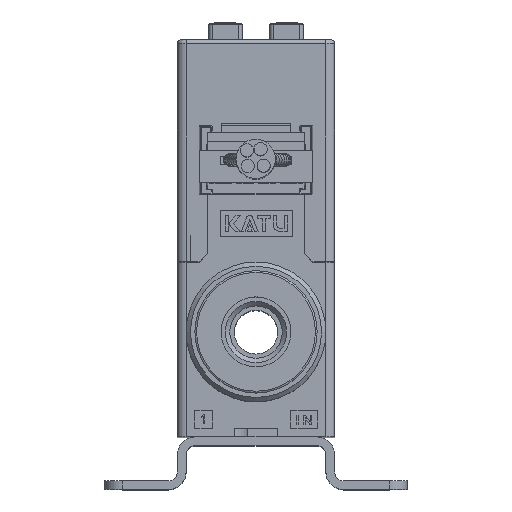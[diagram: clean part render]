
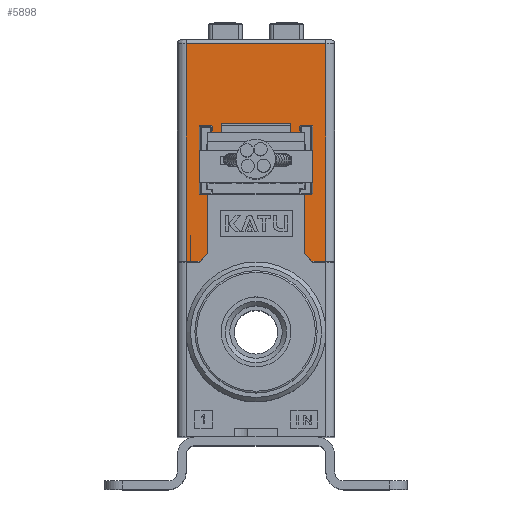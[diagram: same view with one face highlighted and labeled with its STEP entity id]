
A CAD part, top view. The second image highlights one B-rep face of the part: STEP entity #5898.
In plain terms, the highlighted planar face has unit normal (0, 0, 1).
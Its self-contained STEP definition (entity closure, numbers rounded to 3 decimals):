
#104=ELLIPSE('',#18035,0.1,0.1);
#105=ELLIPSE('',#18036,0.1,0.1);
#106=ELLIPSE('',#18037,0.1,0.1);
#107=ELLIPSE('',#18038,0.1,0.1);
#108=ELLIPSE('',#18039,0.1,0.1);
#1301=LINE('',#28096,#2931);
#1307=LINE('',#28110,#2937);
#1359=LINE('',#28219,#2989);
#1370=LINE('',#28241,#3000);
#1445=LINE('',#28441,#3075);
#1446=LINE('',#28444,#3076);
#1447=LINE('',#28446,#3077);
#1448=LINE('',#28448,#3078);
#1449=LINE('',#28449,#3079);
#1450=LINE('',#28450,#3080);
#1451=LINE('',#28452,#3081);
#1452=LINE('',#28456,#3082);
#1453=LINE('',#28459,#3083);
#1454=LINE('',#28462,#3084);
#1455=LINE('',#28466,#3085);
#1456=LINE('',#28470,#3086);
#1457=LINE('',#28471,#3087);
#1458=LINE('',#28472,#3088);
#2931=VECTOR('',#21405,1.);
#2937=VECTOR('',#21413,1.);
#2989=VECTOR('',#21481,1.);
#3000=VECTOR('',#21496,1.);
#3075=VECTOR('',#21673,1.);
#3076=VECTOR('',#21674,1.);
#3077=VECTOR('',#21675,1.);
#3078=VECTOR('',#21676,1.);
#3079=VECTOR('',#21677,1.);
#3080=VECTOR('',#21678,1.);
#3081=VECTOR('',#21679,1.);
#3082=VECTOR('',#21682,1.);
#3083=VECTOR('',#21685,1.);
#3084=VECTOR('',#21688,1.);
#3085=VECTOR('',#21691,1.);
#3086=VECTOR('',#21694,1.);
#3087=VECTOR('',#21695,1.);
#3088=VECTOR('',#21696,1.);
#4082=FACE_OUTER_BOUND('',#7444,.T.);
#5102=PLANE('',#18040);
#5898=ADVANCED_FACE('',(#4082),#5102,.F.);
#7444=EDGE_LOOP('',(#11184,#11185,#11186,#11187,#11188,#11189,#11190,#11191,
#11192,#11193,#11194,#11195,#11196,#11197,#11198,#11199,#11200,#11201,#11202,
#11203,#11204,#11205,#11206));
#11184=ORIENTED_EDGE('',*,*,#15990,.F.);
#11185=ORIENTED_EDGE('',*,*,#15991,.T.);
#11186=ORIENTED_EDGE('',*,*,#15992,.T.);
#11187=ORIENTED_EDGE('',*,*,#15993,.T.);
#11188=ORIENTED_EDGE('',*,*,#15826,.F.);
#11189=ORIENTED_EDGE('',*,*,#15994,.T.);
#11190=ORIENTED_EDGE('',*,*,#15995,.F.);
#11191=ORIENTED_EDGE('',*,*,#15996,.F.);
#11192=ORIENTED_EDGE('',*,*,#15997,.T.);
#11193=ORIENTED_EDGE('',*,*,#15998,.F.);
#11194=ORIENTED_EDGE('',*,*,#15999,.T.);
#11195=ORIENTED_EDGE('',*,*,#15891,.F.);
#11196=ORIENTED_EDGE('',*,*,#16000,.F.);
#11197=ORIENTED_EDGE('',*,*,#15880,.F.);
#11198=ORIENTED_EDGE('',*,*,#16001,.T.);
#11199=ORIENTED_EDGE('',*,*,#16002,.F.);
#11200=ORIENTED_EDGE('',*,*,#16003,.T.);
#11201=ORIENTED_EDGE('',*,*,#16004,.F.);
#11202=ORIENTED_EDGE('',*,*,#16005,.T.);
#11203=ORIENTED_EDGE('',*,*,#16006,.F.);
#11204=ORIENTED_EDGE('',*,*,#16007,.T.);
#11205=ORIENTED_EDGE('',*,*,#15820,.F.);
#11206=ORIENTED_EDGE('',*,*,#16008,.T.);
#13678=VERTEX_POINT('',#28058);
#13694=VERTEX_POINT('',#28091);
#13696=VERTEX_POINT('',#28097);
#13697=VERTEX_POINT('',#28098);
#13702=VERTEX_POINT('',#28109);
#13703=VERTEX_POINT('',#28111);
#13751=VERTEX_POINT('',#28218);
#13752=VERTEX_POINT('',#28220);
#13760=VERTEX_POINT('',#28240);
#13761=VERTEX_POINT('',#28242);
#13835=VERTEX_POINT('',#28442);
#13836=VERTEX_POINT('',#28443);
#13837=VERTEX_POINT('',#28445);
#13838=VERTEX_POINT('',#28447);
#13839=VERTEX_POINT('',#28451);
#13840=VERTEX_POINT('',#28453);
#13841=VERTEX_POINT('',#28455);
#13842=VERTEX_POINT('',#28457);
#13843=VERTEX_POINT('',#28461);
#13844=VERTEX_POINT('',#28463);
#13845=VERTEX_POINT('',#28465);
#13846=VERTEX_POINT('',#28467);
#13847=VERTEX_POINT('',#28469);
#15820=EDGE_CURVE('',#13696,#13697,#1301,.T.);
#15826=EDGE_CURVE('',#13702,#13703,#1307,.T.);
#15880=EDGE_CURVE('',#13751,#13752,#1359,.T.);
#15891=EDGE_CURVE('',#13760,#13761,#1370,.T.);
#15990=EDGE_CURVE('',#13835,#13836,#1445,.T.);
#15991=EDGE_CURVE('',#13835,#13837,#1446,.T.);
#15992=EDGE_CURVE('',#13837,#13838,#1447,.T.);
#15993=EDGE_CURVE('',#13838,#13703,#1448,.T.);
#15994=EDGE_CURVE('',#13702,#13694,#1449,.T.);
#15995=EDGE_CURVE('',#13839,#13694,#1450,.T.);
#15996=EDGE_CURVE('',#13840,#13839,#1451,.T.);
#15997=EDGE_CURVE('',#13840,#13841,#104,.T.);
#15998=EDGE_CURVE('',#13842,#13841,#1452,.T.);
#15999=EDGE_CURVE('',#13842,#13761,#105,.T.);
#16000=EDGE_CURVE('',#13752,#13760,#1453,.T.);
#16001=EDGE_CURVE('',#13751,#13843,#106,.T.);
#16002=EDGE_CURVE('',#13844,#13843,#1454,.T.);
#16003=EDGE_CURVE('',#13844,#13845,#107,.T.);
#16004=EDGE_CURVE('',#13846,#13845,#1455,.T.);
#16005=EDGE_CURVE('',#13846,#13847,#108,.T.);
#16006=EDGE_CURVE('',#13678,#13847,#1456,.T.);
#16007=EDGE_CURVE('',#13678,#13697,#1457,.T.);
#16008=EDGE_CURVE('',#13696,#13836,#1458,.T.);
#18035=AXIS2_PLACEMENT_3D('',#28454,#21680,#21681);
#18036=AXIS2_PLACEMENT_3D('',#28458,#21683,#21684);
#18037=AXIS2_PLACEMENT_3D('',#28460,#21686,#21687);
#18038=AXIS2_PLACEMENT_3D('',#28464,#21689,#21690);
#18039=AXIS2_PLACEMENT_3D('',#28468,#21692,#21693);
#18040=AXIS2_PLACEMENT_3D('',#28473,#21697,#21698);
#21405=DIRECTION('',(-0.707,0.707,0.));
#21413=DIRECTION('',(-0.707,-0.707,0.));
#21481=DIRECTION('',(0.,-1.,0.));
#21496=DIRECTION('',(0.,1.,0.));
#21673=DIRECTION('',(0.,-1.,0.));
#21674=DIRECTION('',(-1.,0.,0.));
#21675=DIRECTION('',(0.,-1.,0.));
#21676=DIRECTION('',(1.,0.,0.));
#21677=DIRECTION('',(0.,1.,0.));
#21678=DIRECTION('',(1.,0.,0.));
#21679=DIRECTION('',(0.,-1.,0.));
#21680=DIRECTION('',(0.,0.,-1.));
#21681=DIRECTION('',(-0.707,0.707,0.));
#21682=DIRECTION('',(-1.,0.,0.));
#21683=DIRECTION('',(0.,0.,-1.));
#21684=DIRECTION('',(0.707,0.707,0.));
#21685=DIRECTION('',(-1.,0.,0.));
#21686=DIRECTION('',(0.,0.,-1.));
#21687=DIRECTION('',(-0.707,0.707,0.));
#21688=DIRECTION('',(-1.,0.,0.));
#21689=DIRECTION('',(0.,0.,-1.));
#21690=DIRECTION('',(0.707,0.707,0.));
#21691=DIRECTION('',(0.,1.,0.));
#21692=DIRECTION('',(0.,0.,-1.));
#21693=DIRECTION('',(-1.,0.,0.));
#21694=DIRECTION('',(1.,0.,0.));
#21695=DIRECTION('',(0.,-1.,0.));
#21696=DIRECTION('',(1.,0.,0.));
#21697=DIRECTION('',(0.,0.,-1.));
#21698=DIRECTION('',(-1.,0.,0.));
#28058=CARTESIAN_POINT('',(32.,16.8,-13.5));
#28091=CARTESIAN_POINT('',(21.,16.8,-13.5));
#28096=CARTESIAN_POINT('',(32.,10.,-13.5));
#28097=CARTESIAN_POINT('',(32.9,9.1,-13.5));
#28098=CARTESIAN_POINT('',(32.,10.,-13.5));
#28109=CARTESIAN_POINT('',(21.,10.,-13.5));
#28110=CARTESIAN_POINT('',(20.,9.,-13.5));
#28111=CARTESIAN_POINT('',(20.1,9.1,-13.5));
#28218=CARTESIAN_POINT('',(31.5,24.5,-13.5));
#28219=CARTESIAN_POINT('',(31.5,36.9,-13.5));
#28220=CARTESIAN_POINT('',(31.5,23.3,-13.5));
#28240=CARTESIAN_POINT('',(21.5,23.3,-13.5));
#28241=CARTESIAN_POINT('',(21.5,36.9,-13.5));
#28242=CARTESIAN_POINT('',(21.5,24.5,-13.5));
#28441=CARTESIAN_POINT('',(34.5,36.6,-13.5));
#28442=CARTESIAN_POINT('',(34.5,34.,-13.5));
#28443=CARTESIAN_POINT('',(34.5,9.1,-13.5));
#28444=CARTESIAN_POINT('',(18.5,34.,-13.5));
#28445=CARTESIAN_POINT('',(18.5,34.,-13.5));
#28446=CARTESIAN_POINT('',(18.5,36.6,-13.5));
#28447=CARTESIAN_POINT('',(18.5,9.1,-13.5));
#28448=CARTESIAN_POINT('',(33.,9.1,-13.5));
#28449=CARTESIAN_POINT('',(21.,21.25,-13.5));
#28450=CARTESIAN_POINT('',(21.,16.8,-13.5));
#28451=CARTESIAN_POINT('',(20.,16.8,-13.5));
#28452=CARTESIAN_POINT('',(20.,36.6,-13.5));
#28453=CARTESIAN_POINT('',(20.,24.5,-13.5));
#28454=CARTESIAN_POINT('',(20.1,24.5,-13.5));
#28455=CARTESIAN_POINT('',(20.1,24.6,-13.5));
#28456=CARTESIAN_POINT('',(33.,24.6,-13.5));
#28457=CARTESIAN_POINT('',(21.4,24.6,-13.5));
#28458=CARTESIAN_POINT('',(21.4,24.5,-13.5));
#28459=CARTESIAN_POINT('',(33.,23.3,-13.5));
#28460=CARTESIAN_POINT('',(31.6,24.5,-13.5));
#28461=CARTESIAN_POINT('',(31.6,24.6,-13.5));
#28462=CARTESIAN_POINT('',(33.,24.6,-13.5));
#28463=CARTESIAN_POINT('',(32.9,24.6,-13.5));
#28464=CARTESIAN_POINT('',(32.9,24.5,-13.5));
#28465=CARTESIAN_POINT('',(33.,24.5,-13.5));
#28466=CARTESIAN_POINT('',(33.,36.6,-13.5));
#28467=CARTESIAN_POINT('',(33.,16.9,-13.5));
#28468=CARTESIAN_POINT('',(32.9,16.9,-13.5));
#28469=CARTESIAN_POINT('',(32.9,16.8,-13.5));
#28470=CARTESIAN_POINT('',(32.,16.8,-13.5));
#28471=CARTESIAN_POINT('',(32.,36.6,-13.5));
#28472=CARTESIAN_POINT('',(33.,9.1,-13.5));
#28473=CARTESIAN_POINT('',(33.,36.6,-13.5));
